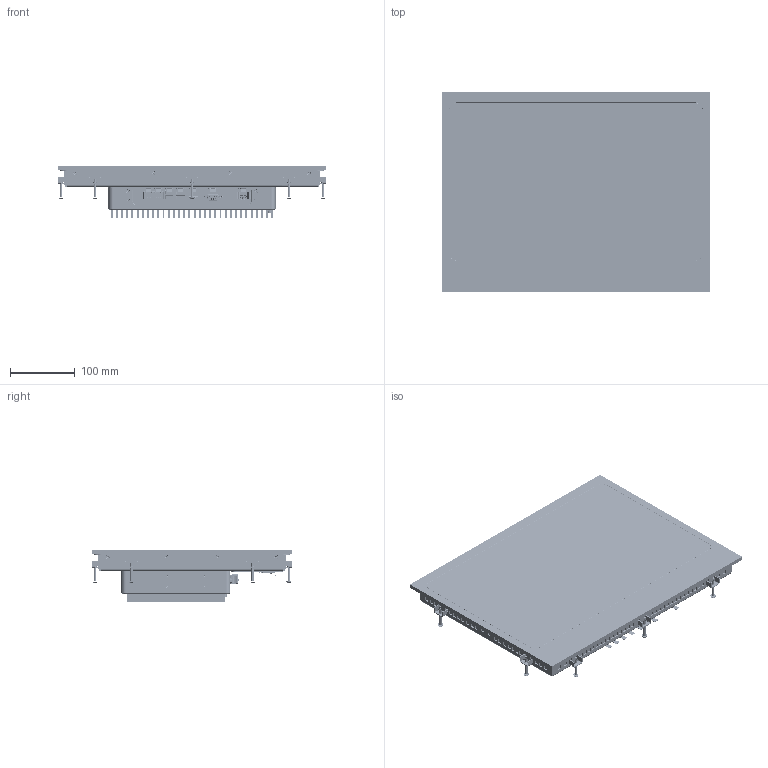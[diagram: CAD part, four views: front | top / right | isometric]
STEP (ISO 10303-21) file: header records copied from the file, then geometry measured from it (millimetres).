
FILE_DESCRIPTION(/* description */ (''),/* implementation_level */ '2;1');
FILE_NAME(/* name */ 'D:\Modelle vereinfacht\notion.S\CPU 14\15.6 Zoll\778-11982-00_EXTERN.stp',/* time_stamp */ '2025-07-09T11:05:13+02:00',/* author */ ('Blessing'),/* organization */ (''),/* preprocessor_version */ 'ST-DEVELOPER v18.1',/* originating_system */ 'Autodesk Inventor 2021',/* authorisation */ '');
FILE_SCHEMA (('AUTOMOTIVE_DESIGN { 1 0 10303 214 3 1 1 }'));
Products named in the file (5): Baugruppe60; 778-11982-00_EXTERN2; 778-90247_EXTERN1; 64-196-296_EXTERN_CPU14; 64-196-296_IPT_000
Assembly tree (10 placements, depth 3):
  Baugruppe60
    778-11982-00_EXTERN2
    778-90247_EXTERN1
    64-196-296_EXTERN_CPU14
      64-196-296_IPT_000  x7
Bounding box: 415 x 310 x 79.4 mm (x, y, z)
Volume: 5418196.3 mm3; surface area: 531624.6 mm2
Topology: 28 solids, 54 shells, 12856 faces, 36427 edges, 23840 vertices
Faces by surface type: plane 8495, cylinder 2845, bspline 806, cone 370, torus 292, sphere 48
Full cylindrical faces by diameter (mm): 0.457 x1, 0.65 x16, 0.95 x32, 2 x1, 2.156 x2, 2.5 x4, 2.8 x2, 3.242 x10, 4 x12, 4.7 x8, 5.54 x25, 6 x11, 6.2 x12, 7 x1, 7.2 x12
Entity records: 413418 total; most frequent: CARTESIAN_POINT 100772, ORIENTED_EDGE 65188, DIRECTION 57898, EDGE_CURVE 33333, LINE 24980, VECTOR 24980, VERTEX_POINT 21908, AXIS2_PLACEMENT_3D 16459
